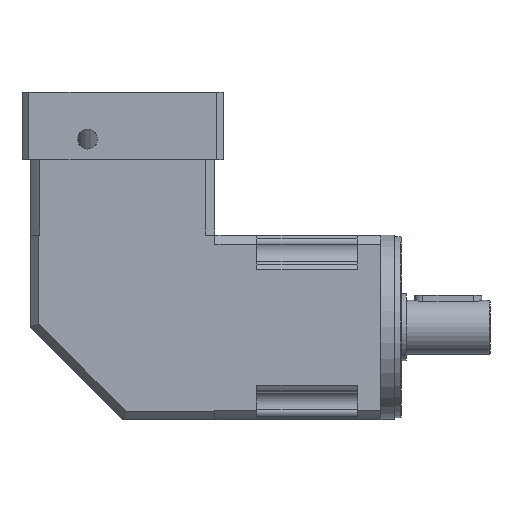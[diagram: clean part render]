
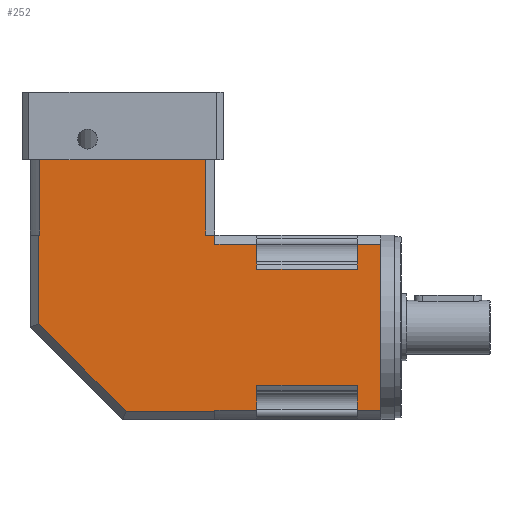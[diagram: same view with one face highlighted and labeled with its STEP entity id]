
A CAD part, front view. The second image highlights one B-rep face of the part: STEP entity #252.
In plain terms, the highlighted planar face has unit normal (0, -1, 0).
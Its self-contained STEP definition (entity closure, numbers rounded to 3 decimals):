
#252=ADVANCED_FACE('',(#417),#365,.T.);
#365=PLANE('',#1992);
#417=FACE_OUTER_BOUND('',#495,.T.);
#495=EDGE_LOOP('',(#965,#966,#967,#968,#969,#970,#971,#972,#973,#974,#975,
#976,#977,#978,#979,#980,#981,#982,#983,#984,#985,#986));
#641=LINE('',#2795,#778);
#669=LINE('',#2868,#806);
#670=LINE('',#2879,#807);
#673=LINE('',#2885,#810);
#674=LINE('',#2888,#811);
#675=LINE('',#2889,#812);
#676=LINE('',#2891,#813);
#677=LINE('',#2893,#814);
#678=LINE('',#2895,#815);
#679=LINE('',#2897,#816);
#680=LINE('',#2899,#817);
#681=LINE('',#2901,#818);
#682=LINE('',#2903,#819);
#683=LINE('',#2905,#820);
#684=LINE('',#2907,#821);
#685=LINE('',#2909,#822);
#686=LINE('',#2911,#823);
#687=LINE('',#2912,#824);
#688=LINE('',#2914,#825);
#689=LINE('',#2915,#826);
#690=LINE('',#2917,#827);
#691=LINE('',#2919,#828);
#778=VECTOR('',#2201,1.);
#806=VECTOR('',#2257,1.);
#807=VECTOR('',#2272,1.);
#810=VECTOR('',#2277,1.);
#811=VECTOR('',#2278,1.);
#812=VECTOR('',#2279,1.);
#813=VECTOR('',#2280,1.);
#814=VECTOR('',#2281,1.);
#815=VECTOR('',#2282,1.);
#816=VECTOR('',#2283,1.);
#817=VECTOR('',#2284,1.);
#818=VECTOR('',#2285,1.);
#819=VECTOR('',#2286,1.);
#820=VECTOR('',#2287,1.);
#821=VECTOR('',#2288,1.);
#822=VECTOR('',#2289,1.);
#823=VECTOR('',#2290,1.);
#824=VECTOR('',#2291,1.);
#825=VECTOR('',#2292,1.);
#826=VECTOR('',#2293,1.);
#827=VECTOR('',#2294,1.);
#828=VECTOR('',#2295,1.);
#965=ORIENTED_EDGE('',*,*,#1646,.T.);
#966=ORIENTED_EDGE('',*,*,#1647,.T.);
#967=ORIENTED_EDGE('',*,*,#1643,.F.);
#968=ORIENTED_EDGE('',*,*,#1648,.T.);
#969=ORIENTED_EDGE('',*,*,#1649,.F.);
#970=ORIENTED_EDGE('',*,*,#1650,.T.);
#971=ORIENTED_EDGE('',*,*,#1651,.T.);
#972=ORIENTED_EDGE('',*,*,#1652,.T.);
#973=ORIENTED_EDGE('',*,*,#1653,.F.);
#974=ORIENTED_EDGE('',*,*,#1654,.F.);
#975=ORIENTED_EDGE('',*,*,#1655,.T.);
#976=ORIENTED_EDGE('',*,*,#1656,.T.);
#977=ORIENTED_EDGE('',*,*,#1657,.T.);
#978=ORIENTED_EDGE('',*,*,#1658,.F.);
#979=ORIENTED_EDGE('',*,*,#1659,.F.);
#980=ORIENTED_EDGE('',*,*,#1602,.F.);
#981=ORIENTED_EDGE('',*,*,#1660,.F.);
#982=ORIENTED_EDGE('',*,*,#1661,.T.);
#983=ORIENTED_EDGE('',*,*,#1636,.T.);
#984=ORIENTED_EDGE('',*,*,#1662,.T.);
#985=ORIENTED_EDGE('',*,*,#1663,.F.);
#986=ORIENTED_EDGE('',*,*,#1664,.T.);
#1423=VERTEX_POINT('',#2792);
#1424=VERTEX_POINT('',#2794);
#1455=VERTEX_POINT('',#2867);
#1456=VERTEX_POINT('',#2869);
#1457=VERTEX_POINT('',#2877);
#1459=VERTEX_POINT('',#2880);
#1461=VERTEX_POINT('',#2886);
#1462=VERTEX_POINT('',#2887);
#1463=VERTEX_POINT('',#2890);
#1464=VERTEX_POINT('',#2892);
#1465=VERTEX_POINT('',#2894);
#1466=VERTEX_POINT('',#2896);
#1467=VERTEX_POINT('',#2898);
#1468=VERTEX_POINT('',#2900);
#1469=VERTEX_POINT('',#2902);
#1470=VERTEX_POINT('',#2904);
#1471=VERTEX_POINT('',#2906);
#1472=VERTEX_POINT('',#2908);
#1473=VERTEX_POINT('',#2910);
#1474=VERTEX_POINT('',#2913);
#1475=VERTEX_POINT('',#2916);
#1476=VERTEX_POINT('',#2918);
#1602=EDGE_CURVE('',#1424,#1423,#641,.T.);
#1636=EDGE_CURVE('',#1456,#1455,#669,.T.);
#1643=EDGE_CURVE('',#1457,#1459,#670,.T.);
#1646=EDGE_CURVE('',#1461,#1462,#673,.T.);
#1647=EDGE_CURVE('',#1462,#1459,#674,.T.);
#1648=EDGE_CURVE('',#1457,#1463,#675,.T.);
#1649=EDGE_CURVE('',#1464,#1463,#676,.T.);
#1650=EDGE_CURVE('',#1464,#1465,#677,.T.);
#1651=EDGE_CURVE('',#1465,#1466,#678,.T.);
#1652=EDGE_CURVE('',#1466,#1467,#679,.T.);
#1653=EDGE_CURVE('',#1468,#1467,#680,.T.);
#1654=EDGE_CURVE('',#1469,#1468,#681,.T.);
#1655=EDGE_CURVE('',#1469,#1470,#682,.T.);
#1656=EDGE_CURVE('',#1470,#1471,#683,.T.);
#1657=EDGE_CURVE('',#1471,#1472,#684,.T.);
#1658=EDGE_CURVE('',#1473,#1472,#685,.T.);
#1659=EDGE_CURVE('',#1423,#1473,#686,.T.);
#1660=EDGE_CURVE('',#1474,#1424,#687,.T.);
#1661=EDGE_CURVE('',#1474,#1456,#688,.T.);
#1662=EDGE_CURVE('',#1455,#1475,#689,.T.);
#1663=EDGE_CURVE('',#1476,#1475,#690,.T.);
#1664=EDGE_CURVE('',#1476,#1461,#691,.T.);
#1992=AXIS2_PLACEMENT_3D('',#2920,#2296,#2297);
#2201=DIRECTION('',(0.,0.,-1.));
#2257=DIRECTION('',(-1.,0.,0.));
#2272=DIRECTION('',(0.,0.,-1.));
#2277=DIRECTION('',(0.707,0.,-0.707));
#2278=DIRECTION('',(1.,0.,0.));
#2279=DIRECTION('',(1.,0.,0.));
#2280=DIRECTION('',(0.,0.,-1.));
#2281=DIRECTION('',(1.,0.,0.));
#2282=DIRECTION('',(0.,0.,-1.));
#2283=DIRECTION('',(1.,0.,0.));
#2284=DIRECTION('',(0.,0.,-1.));
#2285=DIRECTION('',(0.,0.,-1.));
#2286=DIRECTION('',(-1.,0.,0.));
#2287=DIRECTION('',(0.,0.,-1.));
#2288=DIRECTION('',(-1.,0.,0.));
#2289=DIRECTION('',(0.,0.,-1.));
#2290=DIRECTION('',(1.,0.,0.));
#2291=DIRECTION('',(1.,0.,0.));
#2292=DIRECTION('',(0.,0.,1.));
#2293=DIRECTION('',(0.,0.,-1.));
#2294=DIRECTION('',(1.,0.,0.));
#2295=DIRECTION('',(0.,0.,-1.));
#2296=DIRECTION('',(0.,-1.,0.));
#2297=DIRECTION('',(0.,0.,-1.));
#2792=CARTESIAN_POINT('',(55.,-55.,104.508));
#2794=CARTESIAN_POINT('',(55.,-55.,110.));
#2795=CARTESIAN_POINT('',(55.,-55.,110.));
#2867=CARTESIAN_POINT('',(-49.508,-55.,155.));
#2868=CARTESIAN_POINT('',(55.,-55.,155.));
#2869=CARTESIAN_POINT('',(49.508,-55.,155.));
#2877=CARTESIAN_POINT('',(55.,-55.,5.492));
#2879=CARTESIAN_POINT('',(55.,-55.,110.));
#2880=CARTESIAN_POINT('',(55.,-55.,5.));
#2885=CARTESIAN_POINT('',(-23.964,-55.,31.036));
#2886=CARTESIAN_POINT('',(-50.,-55.,57.071));
#2887=CARTESIAN_POINT('',(2.071,-55.,5.));
#2888=CARTESIAN_POINT('',(55.,-55.,5.));
#2889=CARTESIAN_POINT('',(55.,-55.,5.492));
#2890=CARTESIAN_POINT('',(80.,-55.,5.492));
#2891=CARTESIAN_POINT('',(80.,-55.,55.));
#2892=CARTESIAN_POINT('',(80.,-55.,20.359));
#2893=CARTESIAN_POINT('',(95.,-55.,20.359));
#2894=CARTESIAN_POINT('',(140.,-55.,20.359));
#2895=CARTESIAN_POINT('',(140.,-55.,120.));
#2896=CARTESIAN_POINT('',(140.,-55.,5.492));
#2897=CARTESIAN_POINT('',(95.,-55.,5.492));
#2898=CARTESIAN_POINT('',(154.,-55.,5.492));
#2899=CARTESIAN_POINT('',(154.,-55.,0.));
#2900=CARTESIAN_POINT('',(154.,-55.,55.));
#2901=CARTESIAN_POINT('',(154.,-55.,0.));
#2902=CARTESIAN_POINT('',(154.,-55.,104.508));
#2903=CARTESIAN_POINT('',(95.,-55.,104.508));
#2904=CARTESIAN_POINT('',(140.,-55.,104.508));
#2905=CARTESIAN_POINT('',(140.,-55.,120.));
#2906=CARTESIAN_POINT('',(140.,-55.,89.641));
#2907=CARTESIAN_POINT('',(95.,-55.,89.641));
#2908=CARTESIAN_POINT('',(80.,-55.,89.641));
#2909=CARTESIAN_POINT('',(80.,-55.,55.));
#2910=CARTESIAN_POINT('',(80.,-55.,104.508));
#2911=CARTESIAN_POINT('',(55.,-55.,104.508));
#2912=CARTESIAN_POINT('',(55.,-55.,110.));
#2913=CARTESIAN_POINT('',(49.508,-55.,110.));
#2914=CARTESIAN_POINT('',(49.508,-55.,110.));
#2915=CARTESIAN_POINT('',(-49.508,-55.,110.));
#2916=CARTESIAN_POINT('',(-49.508,-55.,110.));
#2917=CARTESIAN_POINT('',(55.,-55.,110.));
#2918=CARTESIAN_POINT('',(-50.,-55.,110.));
#2919=CARTESIAN_POINT('',(-50.,-55.,110.));
#2920=CARTESIAN_POINT('',(55.,-55.,110.));
